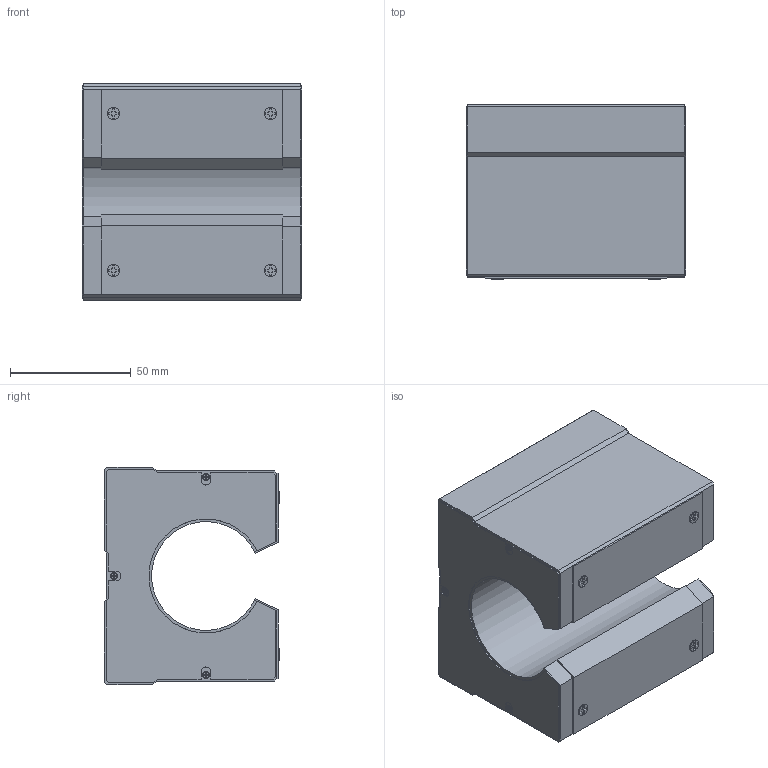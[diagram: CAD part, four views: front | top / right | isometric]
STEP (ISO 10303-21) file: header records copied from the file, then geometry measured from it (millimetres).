
FILE_DESCRIPTION (( 'STEP AP203' ), '1' );
FILE_NAME ('SME40UU.STEP', '2020-03-23T03:03:14', ( '' ), ( '' ), 'SwSTEP 2.0', 'SolidWorks 2017', '' );
FILE_SCHEMA (( 'CONFIG_CONTROL_DESIGN' ));
Length unit declared in the file: millimetre
Products named in the file (1): SME40UU
Bounding box: 91 x 72.5 x 90 mm (x, y, z)
Volume: 409866.5 mm3; surface area: 48730.6 mm2
Topology: 1 solids, 1 shells, 296 faces, 798 edges, 524 vertices
Faces by surface type: plane 239, cylinder 45, torus 12
Entity records: 9273 total; most frequent: CARTESIAN_POINT 1679, ORIENTED_EDGE 1596, DIRECTION 1490, EDGE_CURVE 798, VECTOR 676, LINE 676, VERTEX_POINT 524, AXIS2_PLACEMENT_3D 407
